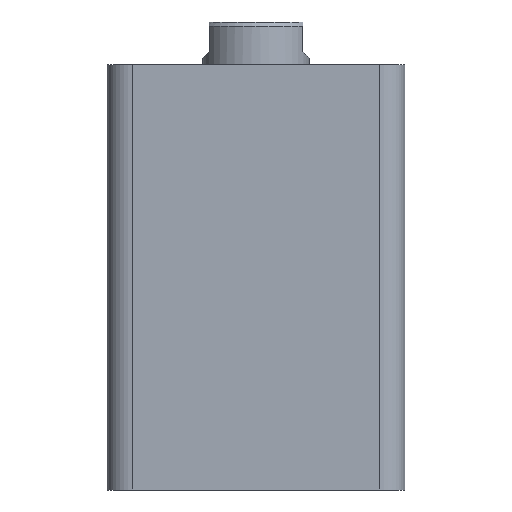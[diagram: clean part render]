
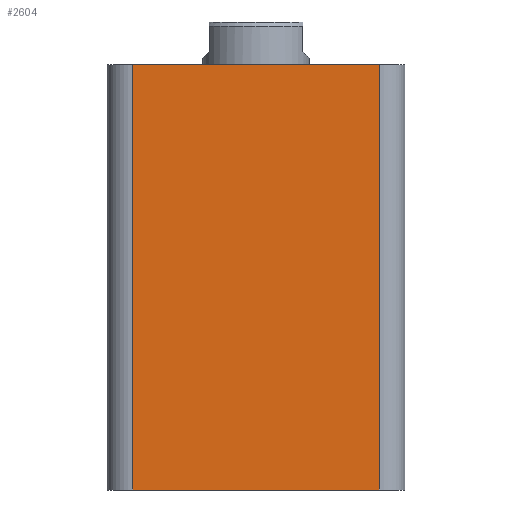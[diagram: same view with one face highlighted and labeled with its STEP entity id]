
A CAD part, front view. The second image highlights one B-rep face of the part: STEP entity #2604.
In plain terms, the highlighted planar face has unit normal (0, -1, 0).
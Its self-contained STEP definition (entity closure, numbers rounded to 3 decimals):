
#128 = VECTOR ( 'NONE', #2508, 1000. ) ;
#130 = VECTOR ( 'NONE', #2510, 1000. ) ;
#131 = LINE ( 'NONE', #2509, #128 ) ;
#132 = VECTOR ( 'NONE', #2513, 1000. ) ;
#133 = VECTOR ( 'NONE', #2515, 1000. ) ;
#134 = LINE ( 'NONE', #2514, #132 ) ;
#136 = LINE ( 'NONE', #2516, #133 ) ;
#142 = LINE ( 'NONE', #2031, #130 ) ;
#429 = ORIENTED_EDGE ( 'NONE', *, *, #946, .T. ) ;
#430 = ORIENTED_EDGE ( 'NONE', *, *, #945, .F. ) ;
#443 = ORIENTED_EDGE ( 'NONE', *, *, #948, .T. ) ;
#444 = ORIENTED_EDGE ( 'NONE', *, *, #947, .T. ) ;
#519 = EDGE_LOOP ( 'NONE', ( #430, #429, #444, #443 ) ) ;
#740 = VERTEX_POINT ( 'NONE', #2296 ) ;
#779 = VERTEX_POINT ( 'NONE', #2120 ) ;
#807 = VERTEX_POINT ( 'NONE', #2561 ) ;
#809 = VERTEX_POINT ( 'NONE', #2554 ) ;
#945 = EDGE_CURVE ( 'NONE', #740, #779, #136, .T. ) ;
#946 = EDGE_CURVE ( 'NONE', #740, #809, #134, .T. ) ;
#947 = EDGE_CURVE ( 'NONE', #809, #807, #142, .T. ) ;
#948 = EDGE_CURVE ( 'NONE', #807, #779, #131, .T. ) ;
#1191 = FACE_OUTER_BOUND ( 'NONE', #519, .T. ) ;
#1686 = AXIS2_PLACEMENT_3D ( 'NONE', #1744, #1734, #1739 ) ;
#1734 = DIRECTION ( 'NONE',  ( 0., 1., 0. ) ) ;
#1739 = DIRECTION ( 'NONE',  ( 0., 0., 1. ) ) ;
#1742 = PLANE ( 'NONE',  #1686 ) ;
#1744 = CARTESIAN_POINT ( 'NONE',  ( -35., -35., 100. ) ) ;
#2031 = CARTESIAN_POINT ( 'NONE',  ( -35., -35., 0. ) ) ;
#2120 = CARTESIAN_POINT ( 'NONE',  ( 29., -35., 100. ) ) ;
#2296 = CARTESIAN_POINT ( 'NONE',  ( -29., -35., 100. ) ) ;
#2508 = DIRECTION ( 'NONE',  ( 0., 0., 1. ) ) ;
#2509 = CARTESIAN_POINT ( 'NONE',  ( 29., -35., 100. ) ) ;
#2510 = DIRECTION ( 'NONE',  ( 1., 0., 0. ) ) ;
#2513 = DIRECTION ( 'NONE',  ( 0., 0., -1. ) ) ;
#2514 = CARTESIAN_POINT ( 'NONE',  ( -29., -35., 100. ) ) ;
#2515 = DIRECTION ( 'NONE',  ( 1., 0., 0. ) ) ;
#2516 = CARTESIAN_POINT ( 'NONE',  ( -35., -35., 100. ) ) ;
#2554 = CARTESIAN_POINT ( 'NONE',  ( -29., -35., 0. ) ) ;
#2561 = CARTESIAN_POINT ( 'NONE',  ( 29., -35., 0. ) ) ;
#2604 = ADVANCED_FACE ( 'NONE', ( #1191 ), #1742, .F. ) ;
